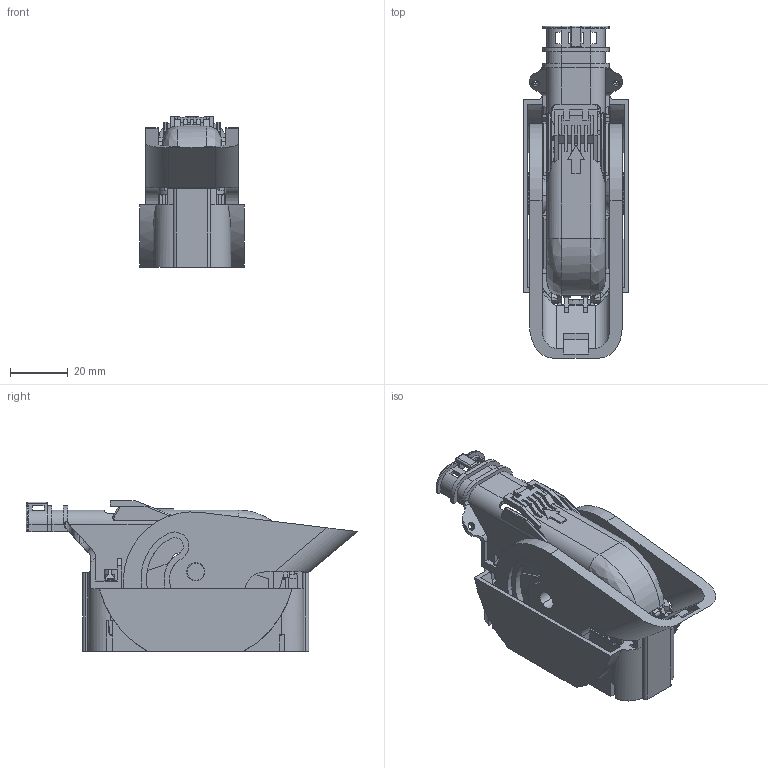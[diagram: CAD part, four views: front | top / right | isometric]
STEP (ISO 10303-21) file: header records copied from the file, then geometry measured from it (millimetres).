
FILE_DESCRIPTION((''), '1');
FILE_NAME('1928405167___38WAY__CABLE_EXIT_LEFT ', '2007-01-19T11:32:49+01:00', (''), (''), 'CATIA.STEP INTERFACE', 'CATIA SOLUTIONS V4 RELEASE 2.4 FR 4.2.4', '');
FILE_SCHEMA(('AUTOMOTIVE_DESIGN { 1 2 10303 214 0 1 1 1 }'));
Length unit declared in the file: millimetre
Products named in the file (1): *MASTER
Bounding box: 36.4 x 115.41 x 52.4 mm (x, y, z)
Volume: 65789.3 mm3; surface area: 52104.1 mm2
Topology: 5 solids, 5 shells, 1345 faces, 4029 edges, 2652 vertices
Faces by surface type: plane 890, cylinder 343, bspline 62, extrusion 34, cone 16
Entity records: 49758 total; most frequent: CARTESIAN_POINT 14485, ORIENTED_EDGE 8034, DIRECTION 6445, EDGE_CURVE 4017, VECTOR 2967, LINE 2933, VERTEX_POINT 2652, AXIS2_PLACEMENT_3D 1739
